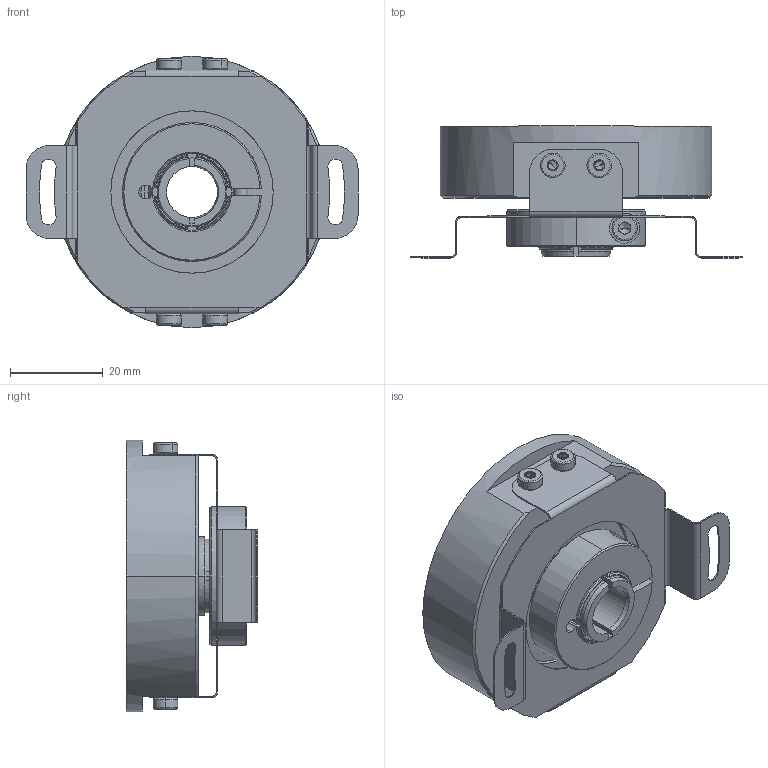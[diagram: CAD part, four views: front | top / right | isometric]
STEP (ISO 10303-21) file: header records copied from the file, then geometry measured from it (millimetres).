
FILE_DESCRIPTION (( 'STEP AP214' ), '1' );
FILE_NAME ('drawing-ucd-hbps-q5b-n.STEP', '2017-05-12T12:00:31', ( '' ), ( '' ), 'SwSTEP 2.0', 'SolidWorks 2017', '' );
FILE_SCHEMA (( 'AUTOMOTIVE_DESIGN' ));
Length unit declared in the file: millimetre
Products named in the file (1): drawing-ucd-hbps-q5b-n
Bounding box: 71.57 x 28.4 x 58.5 mm (x, y, z)
Volume: 41312.2 mm3; surface area: 30073 mm2
Topology: 24 solids, 24 shells, 1061 faces, 2534 edges, 1513 vertices
Faces by surface type: cone 350, cylinder 267, plane 264, bspline 136, torus 44
Entity records: 48822 total; most frequent: CARTESIAN_POINT 12974, DIRECTION 5012, ORIENTED_EDGE 4968, EDGE_CURVE 2484, AXIS2_PLACEMENT_3D 1954, VERTEX_POINT 1513, EDGE_LOOP 1143, LINE 1104
